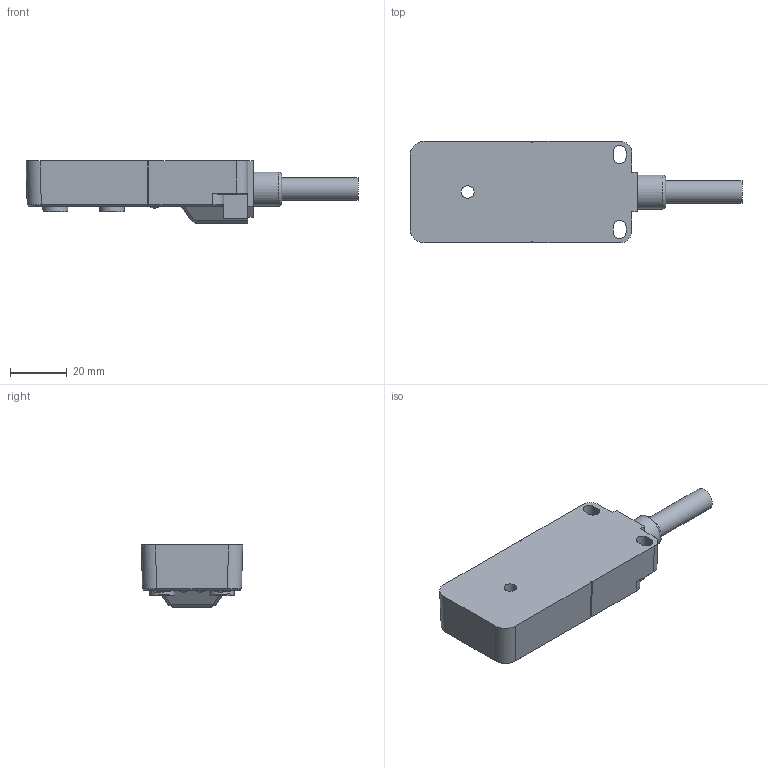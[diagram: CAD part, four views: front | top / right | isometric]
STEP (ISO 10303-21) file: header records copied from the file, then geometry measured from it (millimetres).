
FILE_DESCRIPTION(/* description */ (''),/* implementation_level */ '2;1');
FILE_NAME(/* name */ 'D4M8-3S-L.stp',/* time_stamp */ '2018-04-18T13:24:32+08:00',/* author */ (''),/* organization */ (''),/* preprocessor_version */ 'ST-DEVELOPER v16',/* originating_system */ 'SIEMENS PLM Software NX 10.0',/* authorisation */ '');
FILE_SCHEMA (('AP203_CONFIGURATION_CONTROLLED_3D_DESIGN_OF_MECHANICAL_PARTS_AND_ASSEMBLIES_MIM_LF { 1 0 10303 403 2 1 2}'));
Products named in the file (1): 9147259C92A3cyy4
Bounding box: 117.42 x 35.84 x 22 mm (x, y, z)
Volume: 39071.8 mm3; surface area: 24790.6 mm2
Topology: 10 solids, 17 shells, 1585 faces, 4424 edges, 2940 vertices
Faces by surface type: cylinder 1077, plane 404, cone 39, bspline 28, extrusion 23, torus 9, sphere 5
Full cylindrical faces by diameter (mm): 1.1 x12, 1.5 x12, 2.8 x5, 4.5 x1, 5.8 x4, 6.5 x1, 7.8 x4, 8 x5, 9 x4, 9.8 x4, 12 x1
Entity records: 60276 total; most frequent: CARTESIAN_POINT 18906, DIRECTION 9059, ORIENTED_EDGE 8550, EDGE_CURVE 4275, AXIS2_PLACEMENT_3D 3560, VERTEX_POINT 2887, CIRCLE 2017, VECTOR 1939
